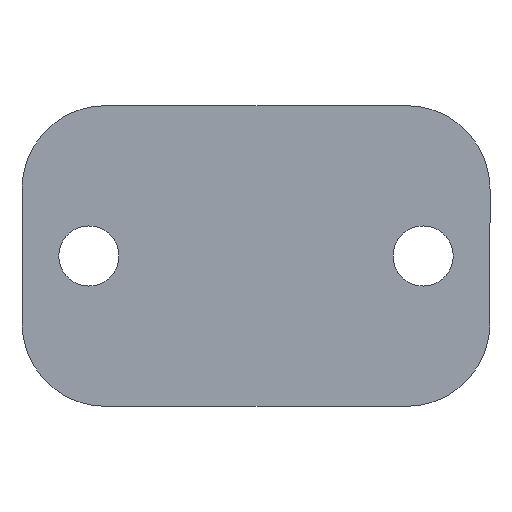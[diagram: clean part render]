
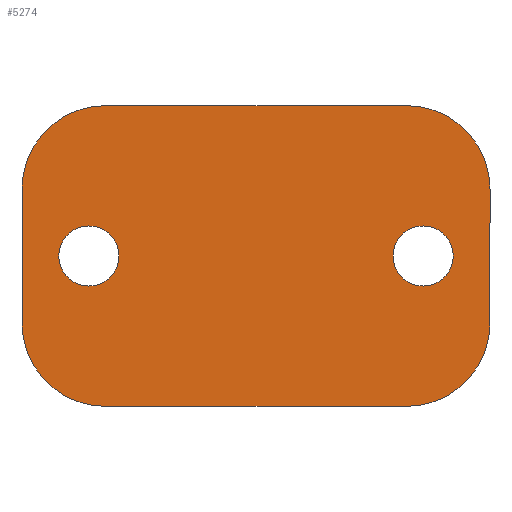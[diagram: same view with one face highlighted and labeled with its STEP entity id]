
A CAD part, front view. The second image highlights one B-rep face of the part: STEP entity #5274.
In plain terms, the highlighted planar face has unit normal (0, -1, 0).
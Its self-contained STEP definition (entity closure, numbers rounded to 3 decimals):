
#25 = FACE_BOUND ( 'NONE', #1884, .T. ) ;
#130 = DIRECTION ( 'NONE',  ( 0., -1., 0. ) ) ;
#133 = CIRCLE ( 'NONE', #844, 25. ) ;
#141 = DIRECTION ( 'NONE',  ( 1., 0., 0. ) ) ;
#202 = ORIENTED_EDGE ( 'NONE', *, *, #4377, .F. ) ;
#240 = EDGE_CURVE ( 'NONE', #2427, #3375, #133, .T. ) ;
#274 = CIRCLE ( 'NONE', #2535, 9. ) ;
#352 = ORIENTED_EDGE ( 'NONE', *, *, #240, .T. ) ;
#442 = EDGE_LOOP ( 'NONE', ( #202, #1964 ) ) ;
#461 = ORIENTED_EDGE ( 'NONE', *, *, #4203, .T. ) ;
#463 = ORIENTED_EDGE ( 'NONE', *, *, #2335, .F. ) ;
#482 = CARTESIAN_POINT ( 'NONE',  ( -70., -20., -20. ) ) ;
#484 = DIRECTION ( 'NONE',  ( 1., 0., 0. ) ) ;
#488 = LINE ( 'NONE', #4448, #4548 ) ;
#542 = AXIS2_PLACEMENT_3D ( 'NONE', #2969, #3832, #1259 ) ;
#587 = EDGE_CURVE ( 'NONE', #4009, #2427, #4240, .T. ) ;
#672 = VERTEX_POINT ( 'NONE', #4328 ) ;
#795 = DIRECTION ( 'NONE',  ( 0., -1., 0. ) ) ;
#804 = ORIENTED_EDGE ( 'NONE', *, *, #2104, .T. ) ;
#843 = VERTEX_POINT ( 'NONE', #1898 ) ;
#844 = AXIS2_PLACEMENT_3D ( 'NONE', #5545, #795, #2112 ) ;
#940 = DIRECTION ( 'NONE',  ( 1., 0., 0. ) ) ;
#1068 = AXIS2_PLACEMENT_3D ( 'NONE', #2225, #1363, #484 ) ;
#1093 = EDGE_CURVE ( 'NONE', #2399, #2926, #3777, .T. ) ;
#1216 = ORIENTED_EDGE ( 'NONE', *, *, #3326, .T. ) ;
#1259 = DIRECTION ( 'NONE',  ( 1., 0., 0. ) ) ;
#1271 = CIRCLE ( 'NONE', #4550, 25. ) ;
#1292 = CARTESIAN_POINT ( 'NONE',  ( 70., -20., 20. ) ) ;
#1324 = DIRECTION ( 'NONE',  ( 1., 0., 0. ) ) ;
#1342 = EDGE_CURVE ( 'NONE', #2926, #3253, #1697, .T. ) ;
#1363 = DIRECTION ( 'NONE',  ( 0., -1., 0. ) ) ;
#1619 = EDGE_CURVE ( 'NONE', #3683, #2370, #5147, .T. ) ;
#1697 = LINE ( 'NONE', #5232, #2041 ) ;
#1713 = CARTESIAN_POINT ( 'NONE',  ( 45., -20., 45. ) ) ;
#1723 = CARTESIAN_POINT ( 'NONE',  ( 0., -20., 0. ) ) ;
#1780 = ORIENTED_EDGE ( 'NONE', *, *, #3268, .F. ) ;
#1884 = EDGE_LOOP ( 'NONE', ( #1780, #463 ) ) ;
#1898 = CARTESIAN_POINT ( 'NONE',  ( 70., -20., -20. ) ) ;
#1958 = AXIS2_PLACEMENT_3D ( 'NONE', #4853, #130, #4487 ) ;
#1964 = ORIENTED_EDGE ( 'NONE', *, *, #1619, .F. ) ;
#2041 = VECTOR ( 'NONE', #4742, 1000. ) ;
#2104 = EDGE_CURVE ( 'NONE', #3253, #4009, #5445, .T. ) ;
#2112 = DIRECTION ( 'NONE',  ( 1., 0., 0. ) ) ;
#2202 = CARTESIAN_POINT ( 'NONE',  ( -45., -20., -45. ) ) ;
#2225 = CARTESIAN_POINT ( 'NONE',  ( 50., -20., 0. ) ) ;
#2231 = DIRECTION ( 'NONE',  ( 1., 0., 0. ) ) ;
#2317 = ORIENTED_EDGE ( 'NONE', *, *, #587, .T. ) ;
#2335 = EDGE_CURVE ( 'NONE', #672, #2943, #2363, .T. ) ;
#2363 = CIRCLE ( 'NONE', #542, 9. ) ;
#2370 = VERTEX_POINT ( 'NONE', #5496 ) ;
#2395 = EDGE_CURVE ( 'NONE', #843, #2399, #2491, .T. ) ;
#2399 = VERTEX_POINT ( 'NONE', #2607 ) ;
#2427 = VERTEX_POINT ( 'NONE', #482 ) ;
#2464 = CARTESIAN_POINT ( 'NONE',  ( 45., -20., -45. ) ) ;
#2491 = LINE ( 'NONE', #1292, #4096 ) ;
#2535 = AXIS2_PLACEMENT_3D ( 'NONE', #3970, #4813, #3022 ) ;
#2576 = PLANE ( 'NONE',  #5007 ) ;
#2607 = CARTESIAN_POINT ( 'NONE',  ( 70., -20., 20. ) ) ;
#2819 = AXIS2_PLACEMENT_3D ( 'NONE', #4562, #4082, #3205 ) ;
#2848 = VERTEX_POINT ( 'NONE', #2464 ) ;
#2926 = VERTEX_POINT ( 'NONE', #1713 ) ;
#2943 = VERTEX_POINT ( 'NONE', #3426 ) ;
#2969 = CARTESIAN_POINT ( 'NONE',  ( -50., -20., 0. ) ) ;
#3022 = DIRECTION ( 'NONE',  ( 1., 0., 0. ) ) ;
#3072 = DIRECTION ( 'NONE',  ( 0., -1., 0. ) ) ;
#3205 = DIRECTION ( 'NONE',  ( 1., 0., 0. ) ) ;
#3237 = ORIENTED_EDGE ( 'NONE', *, *, #2395, .T. ) ;
#3253 = VERTEX_POINT ( 'NONE', #4639 ) ;
#3268 = EDGE_CURVE ( 'NONE', #2943, #672, #274, .T. ) ;
#3326 = EDGE_CURVE ( 'NONE', #3375, #2848, #488, .T. ) ;
#3375 = VERTEX_POINT ( 'NONE', #2202 ) ;
#3376 = FACE_OUTER_BOUND ( 'NONE', #4846, .T. ) ;
#3426 = CARTESIAN_POINT ( 'NONE',  ( -41., -20., 0. ) ) ;
#3683 = VERTEX_POINT ( 'NONE', #4949 ) ;
#3771 = CARTESIAN_POINT ( 'NONE',  ( -70., -20., 20. ) ) ;
#3777 = CIRCLE ( 'NONE', #1958, 25. ) ;
#3816 = CIRCLE ( 'NONE', #2819, 9. ) ;
#3832 = DIRECTION ( 'NONE',  ( 0., -1., 0. ) ) ;
#3945 = CARTESIAN_POINT ( 'NONE',  ( 45., -20., -20. ) ) ;
#3970 = CARTESIAN_POINT ( 'NONE',  ( -50., -20., 0. ) ) ;
#3987 = CARTESIAN_POINT ( 'NONE',  ( -45., -20., 20. ) ) ;
#4009 = VERTEX_POINT ( 'NONE', #3771 ) ;
#4082 = DIRECTION ( 'NONE',  ( 0., -1., 0. ) ) ;
#4096 = VECTOR ( 'NONE', #4339, 1000. ) ;
#4161 = CARTESIAN_POINT ( 'NONE',  ( -70., -20., 20. ) ) ;
#4203 = EDGE_CURVE ( 'NONE', #2848, #843, #1271, .T. ) ;
#4240 = LINE ( 'NONE', #4161, #5122 ) ;
#4328 = CARTESIAN_POINT ( 'NONE',  ( -59., -20., 0. ) ) ;
#4339 = DIRECTION ( 'NONE',  ( 0., 0., 1. ) ) ;
#4377 = EDGE_CURVE ( 'NONE', #2370, #3683, #3816, .T. ) ;
#4448 = CARTESIAN_POINT ( 'NONE',  ( -45., -20., -45. ) ) ;
#4487 = DIRECTION ( 'NONE',  ( 1., 0., 0. ) ) ;
#4548 = VECTOR ( 'NONE', #2231, 1000. ) ;
#4550 = AXIS2_PLACEMENT_3D ( 'NONE', #3945, #4909, #940 ) ;
#4562 = CARTESIAN_POINT ( 'NONE',  ( 50., -20., 0. ) ) ;
#4614 = DIRECTION ( 'NONE',  ( 0., 0., -1. ) ) ;
#4639 = CARTESIAN_POINT ( 'NONE',  ( -45., -20., 45. ) ) ;
#4742 = DIRECTION ( 'NONE',  ( -1., 0., 0. ) ) ;
#4813 = DIRECTION ( 'NONE',  ( 0., -1., 0. ) ) ;
#4846 = EDGE_LOOP ( 'NONE', ( #352, #1216, #461, #3237, #5308, #5080, #804, #2317 ) ) ;
#4853 = CARTESIAN_POINT ( 'NONE',  ( 45., -20., 20. ) ) ;
#4909 = DIRECTION ( 'NONE',  ( 0., -1., 0. ) ) ;
#4949 = CARTESIAN_POINT ( 'NONE',  ( 41., -20., 0. ) ) ;
#5007 = AXIS2_PLACEMENT_3D ( 'NONE', #1723, #5229, #1324 ) ;
#5045 = AXIS2_PLACEMENT_3D ( 'NONE', #3987, #3072, #141 ) ;
#5080 = ORIENTED_EDGE ( 'NONE', *, *, #1342, .T. ) ;
#5122 = VECTOR ( 'NONE', #4614, 1000. ) ;
#5147 = CIRCLE ( 'NONE', #1068, 9. ) ;
#5229 = DIRECTION ( 'NONE',  ( 0., -1., 0. ) ) ;
#5232 = CARTESIAN_POINT ( 'NONE',  ( -45., -20., 45. ) ) ;
#5274 = ADVANCED_FACE ( 'NONE', ( #25, #5585, #3376 ), #2576, .T. ) ;
#5308 = ORIENTED_EDGE ( 'NONE', *, *, #1093, .T. ) ;
#5445 = CIRCLE ( 'NONE', #5045, 25. ) ;
#5496 = CARTESIAN_POINT ( 'NONE',  ( 59., -20., 0. ) ) ;
#5545 = CARTESIAN_POINT ( 'NONE',  ( -45., -20., -20. ) ) ;
#5585 = FACE_BOUND ( 'NONE', #442, .T. ) ;
